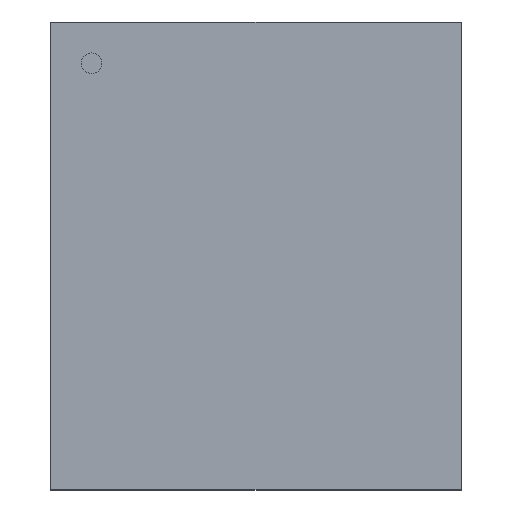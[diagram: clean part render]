
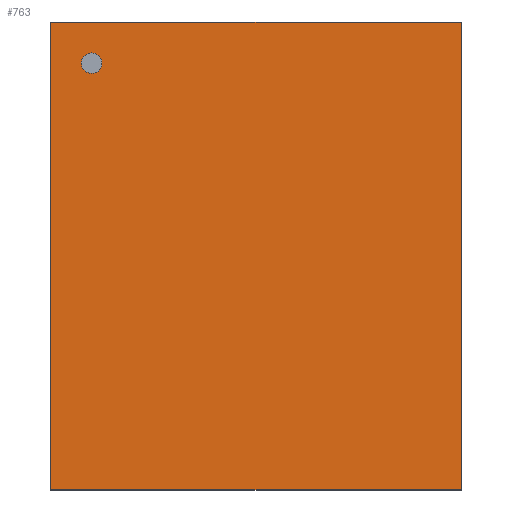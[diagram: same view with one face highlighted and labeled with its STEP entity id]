
A CAD part, top view. The second image highlights one B-rep face of the part: STEP entity #763.
In plain terms, the highlighted planar face has unit normal (0, 0, 1).
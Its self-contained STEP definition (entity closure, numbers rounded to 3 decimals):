
#539=CARTESIAN_POINT('',(1.003,-1.143,0.508));
#538=VERTEX_POINT('',#539);
#549=CARTESIAN_POINT('',(-1.003,-1.143,0.508));
#548=VERTEX_POINT('',#549);
#547=EDGE_CURVE('',#548,#538,#552,.T.);
#552=LINE('',#549,#554);
#554=VECTOR('',#555,2.007);
#555=DIRECTION('',(1.0,0.0,0.0));
#588=CARTESIAN_POINT('',(1.003,1.143,0.508));
#587=VERTEX_POINT('',#588);
#596=EDGE_CURVE('',#538,#587,#601,.T.);
#601=LINE('',#539,#603);
#603=VECTOR('',#604,2.286);
#604=DIRECTION('',(0.0,1.0,0.0));
#637=CARTESIAN_POINT('',(-1.003,1.143,0.508));
#636=VERTEX_POINT('',#637);
#645=EDGE_CURVE('',#587,#636,#650,.T.);
#650=LINE('',#588,#652);
#652=VECTOR('',#653,2.007);
#653=DIRECTION('',(-1.0,0.0,0.0));
#694=EDGE_CURVE('',#636,#548,#699,.T.);
#699=LINE('',#637,#701);
#701=VECTOR('',#702,2.286);
#702=DIRECTION('',(0.0,-1.0,0.0));
#763=ADVANCED_FACE('',(#769),#764,.T.);
#764=PLANE('',#765);
#765=AXIS2_PLACEMENT_3D('',#766,#767,#768);
#766=CARTESIAN_POINT('',(-1.003,-1.143,0.508));
#767=DIRECTION('',(0.0,0.0,1.0));
#768=DIRECTION('',(0.,1.,0.));
#769=FACE_OUTER_BOUND('',#770,.T.);
#770=EDGE_LOOP('',(#771,#781,#791,#801));
#771=ORIENTED_EDGE('',*,*,#547,.T.);
#781=ORIENTED_EDGE('',*,*,#596,.T.);
#791=ORIENTED_EDGE('',*,*,#645,.T.);
#801=ORIENTED_EDGE('',*,*,#694,.T.);
